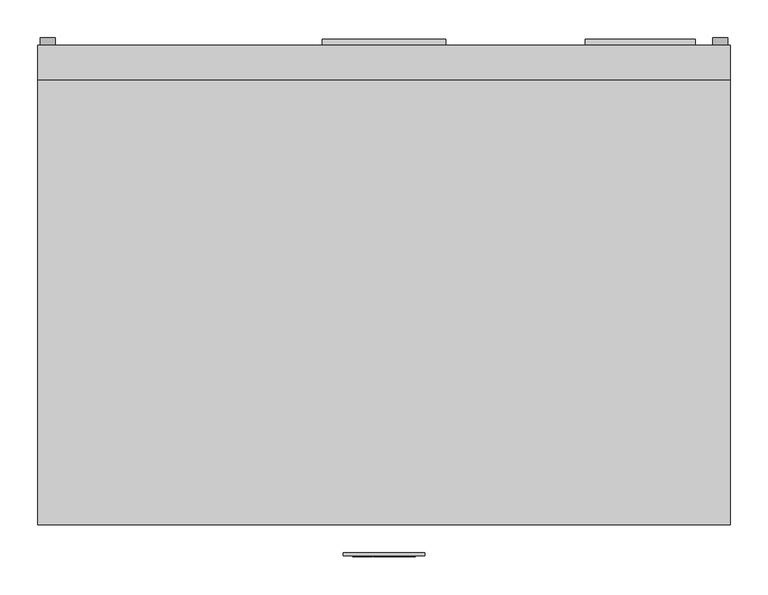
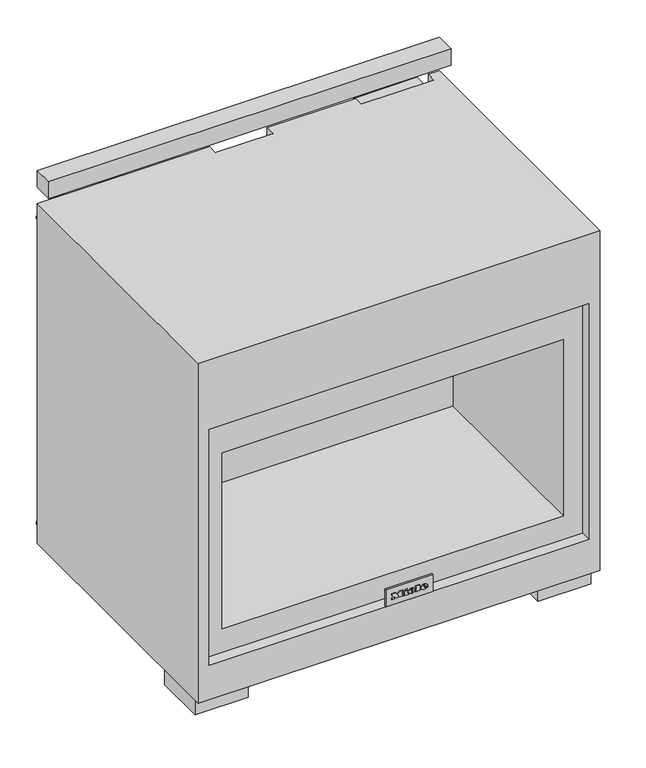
"""IFC4 building model written with IfcOpenShell, lengths in millimetres: proxy geometry, 11791610_USA_HR1936-3G_EDST-CLST : 25193681_USA_11791610_HR1936-3G_EDST-CLST."""

from ifc_helpers import new_model, si_unit, point, frame, frame_2d, origin, origin_with_axes, place, context, project, spatial, polyline, circle_curve, ellipse_curve, trimmed, segment, composite_curve, outline, extrude, faceted_brep, source, transform, mapped, element, save
from ifc_brep_helpers import plane_surface, cylinder_surface, revolved_surface, extruded_surface, advanced_brep


def specialty_equipment_e8b4f273(model_context):
    return source(origin(), model_context, "Body", "SolidModel", [
        extrude(outline(composite_curve([segment(trimmed(circle_curve(frame_2d((822.0, 444.0)), 10.0), [point((822.0, 454.0))], [point((822.0, 434.0))], False, "CARTESIAN"), True, "CONTINUOUS"), segment(trimmed(circle_curve(frame_2d((822.0, 444.0)), 10.0), [point((822.0, 434.0))], [point((822.0, 454.0))], False, "CARTESIAN"), True, "CONTINUOUS")], self_intersect=False)), frame((0.0, 0.0, 0.0), z_axis=(0.0, 1.0, 0.0), x_axis=(0.0, 0.0, 1.0)), (0.0, 0.0, 1.0), 10.0),
        extrude(outline(composite_curve([segment(trimmed(circle_curve(frame_2d((87.0, 444.0)), 10.0), [point((87.0, 454.0))], [point((87.0, 434.0))], False, "CARTESIAN"), True, "CONTINUOUS"), segment(trimmed(circle_curve(frame_2d((87.0, 444.0)), 10.0), [point((87.0, 434.0))], [point((87.0, 454.0))], False, "CARTESIAN"), True, "CONTINUOUS")], self_intersect=False)), frame((0.0, 0.0, 0.0), z_axis=(0.0, 1.0, 0.0), x_axis=(0.0, 0.0, 1.0)), (0.0, 0.0, 1.0), 10.0),
        extrude(outline(composite_curve([segment(trimmed(circle_curve(frame_2d((822.0, -444.0)), 10.0), [point((822.0, -434.0))], [point((822.0, -454.0))], False, "CARTESIAN"), True, "CONTINUOUS"), segment(trimmed(circle_curve(frame_2d((822.0, -444.0)), 10.0), [point((822.0, -454.0))], [point((822.0, -434.0))], False, "CARTESIAN"), True, "CONTINUOUS")], self_intersect=False)), frame((0.0, 0.0, 0.0), z_axis=(0.0, 1.0, 0.0), x_axis=(0.0, 0.0, 1.0)), (0.0, 0.0, 1.0), 10.0),
        extrude(outline(composite_curve([segment(trimmed(circle_curve(frame_2d((87.0, -444.0)), 10.0), [point((87.0, -434.0))], [point((87.0, -454.0))], False, "CARTESIAN"), True, "CONTINUOUS"), segment(trimmed(circle_curve(frame_2d((87.0, -444.0)), 10.0), [point((87.0, -454.0))], [point((87.0, -434.0))], False, "CARTESIAN"), True, "CONTINUOUS")], self_intersect=False)), frame((0.0, 0.0, 0.0), z_axis=(0.0, 1.0, 0.0), x_axis=(0.0, 0.0, 1.0)), (0.0, 0.0, 1.0), 10.0),
        extrude(outline(polyline([(266.0, 8.0), (411.0, 8.0), (411.0, -23.0), (266.0, -23.0), (266.0, 8.0)])), frame((0.0, 0.0, 742.0), z_axis=(0.0, 0.0, 1.0), x_axis=(1.0, 0.0, 0.0)), (0.0, 0.0, 1.0), 115.0),
        extrude(outline(polyline([(-81.5, 8.0), (81.5, 8.0), (81.5, 0.0), (-81.5, 0.0), (-81.5, 8.0)])), frame((0.0, 0.0, 559.0), z_axis=(0.0, 0.0, 1.0), x_axis=(1.0, 0.0, 0.0)), (0.0, 0.0, 1.0), 237.0),
        extrude(outline(composite_curve([segment(trimmed(circle_curve(frame_2d((-152.0, 39.6862697)), 39.6862697), [point((-112.6710759, 45.0))], [point((-191.3289241, 45.0))], False, "CARTESIAN"), True, "CONTINUOUS"), segment(polyline([(-191.3289241, 45.0), (-112.6710759, 45.0)]), True, "CONTINUOUS")], self_intersect=False)), frame((282.0, 0.0, 0.0), z_axis=(1.0, 0.0, 0.0), x_axis=(0.0, 1.0, 0.0)), (0.0, 0.0, 1.0), 28.0),
        extrude(outline(composite_curve([segment(polyline([(-366.0009008, -40.0), (-367.2635363, -40.0), (-367.0191787, -38.9415709), (-366.8778726, -34.1117735)]), True, "CONTINUOUS"), segment(trimmed(circle_curve(frame_2d((-365.387549, -34.1553762)), 1.4909613), [point((-366.8778726, -34.1117735))], [point((-365.6381402, -32.6856246))], False, "CARTESIAN"), True, "CONTINUOUS"), segment(trimmed(circle_curve(frame_2d((-364.1175682, -37.7832301)), 5.3195602), [point((-365.6381402, -32.6856246))], [point((-362.440667, -32.7348914))], False, "CARTESIAN"), True, "CONTINUOUS"), segment(polyline([(-362.440667, -32.7348914), (-361.3643767, -33.4338425), (-360.8177226, -34.6616478), (-362.0710839, -34.8155412), (-362.6628147, -33.9704619)]), True, "CONTINUOUS"), segment(trimmed(circle_curve(frame_2d((-363.889909, -36.6278559)), 2.9270297), [point((-362.6628147, -33.9704619))], [point((-365.335883, -34.0829271))], True, "CARTESIAN"), True, "CONTINUOUS"), segment(polyline([(-365.335883, -34.0829271), (-365.6819155, -35.289686), (-362.4250607, -35.9227545)]), True, "CONTINUOUS"), segment(trimmed(circle_curve(frame_2d((-362.8373847, -38.0439776)), 2.1609254), [point((-362.4250607, -35.9227545))], [point((-361.2872437, -39.5495212))], False, "CARTESIAN"), True, "CONTINUOUS"), segment(trimmed(circle_curve(frame_2d((-363.2230106, -36.6941434)), 3.4496922), [point((-361.2872437, -39.5495212))], [point((-364.4810512, -39.9062626))], False, "CARTESIAN"), True, "CONTINUOUS"), segment(polyline([(-364.4810512, -39.9062626), (-365.6943945, -39.0566705), (-366.0009008, -40.0)]), True, "CONTINUOUS")], self_intersect=False), holes=[composite_curve([segment(polyline([(-365.6808047, -36.7241112), (-365.4778117, -37.8753414), (-364.6808418, -38.5929363), (-363.3846505, -38.8921857)]), True, "CONTINUOUS"), segment(trimmed(circle_curve(frame_2d((-363.1641539, -37.9371101)), 0.980198), [point((-363.3846505, -38.8921857))], [point((-362.5826105, -37.148063))], True, "CARTESIAN"), True, "CONTINUOUS"), segment(polyline([(-362.5826105, -37.148063), (-363.683896, -36.9339948), (-365.6808047, -36.7241112)]), True, "CONTINUOUS")], self_intersect=False)]), frame((0.0, 0.0, 753.0), z_axis=(0.0, 0.0, 1.0), x_axis=(1.0, 0.0, 0.0)), (0.0, 0.0, 1.0), 1.0),
        extrude(outline(composite_curve([segment(polyline([(-369.4581842, -37.6489066), (-368.202206, -37.8031213), (-369.1593436, -39.5606642)]), True, "CONTINUOUS"), segment(trimmed(circle_curve(frame_2d((-371.3057471, -36.6354063)), 3.6282478), [point((-369.1593436, -39.5606642))], [point((-372.8962663, -39.8964538))], False, "CARTESIAN"), True, "CONTINUOUS"), segment(trimmed(circle_curve(frame_2d((-371.7731504, -37.593725)), 2.5620205), [point((-372.8962663, -39.8964538))], [point((-374.32893, -37.7724425))], False, "CARTESIAN"), True, "CONTINUOUS"), segment(trimmed(circle_curve(frame_2d((-372.617737, -37.6527843)), 1.7153715), [point((-374.32893, -37.7724425))], [point((-373.147816, -36.021369))], False, "CARTESIAN"), True, "CONTINUOUS"), segment(polyline([(-373.147816, -36.021369), (-371.3069947, -35.4232499), (-369.987673, -33.9770867)]), True, "CONTINUOUS"), segment(trimmed(circle_curve(frame_2d((-371.1408399, -36.351197)), 2.6393548), [point((-369.987673, -33.9770867))], [point((-372.2940069, -33.9770867))], True, "CARTESIAN"), True, "CONTINUOUS"), segment(polyline([(-372.2940069, -33.9770867), (-372.7553884, -34.6611129), (-374.0084996, -34.5072502), (-373.5756304, -33.3795875)]), True, "CONTINUOUS"), segment(trimmed(circle_curve(frame_2d((-370.9527143, -36.6576461)), 4.1982564), [point((-373.5756304, -33.3795875))], [point((-371.0505395, -32.4605295))], False, "CARTESIAN"), True, "CONTINUOUS"), segment(trimmed(circle_curve(frame_2d((-370.9805679, -35.4626064)), 3.0028922), [point((-371.0505395, -32.4605295))], [point((-368.5718203, -33.6694816))], False, "CARTESIAN"), True, "CONTINUOUS"), segment(trimmed(circle_curve(frame_2d((-370.4380028, -34.5301363)), 2.0550823), [point((-368.5718203, -33.6694816))], [point((-369.4341096, -36.323335))], False, "CARTESIAN"), True, "CONTINUOUS"), segment(polyline([(-369.4341096, -36.323335), (-371.3494535, -36.9828408), (-373.0597255, -37.9076387), (-372.6768706, -38.6156702)]), True, "CONTINUOUS"), segment(trimmed(circle_curve(frame_2d((-371.3695779, -35.6018954)), 3.2850956), [point((-372.6768706, -38.6156702))], [point((-370.0622852, -38.6156702))], True, "CARTESIAN"), True, "CONTINUOUS"), segment(polyline([(-370.0622852, -38.6156702), (-369.4581842, -37.6489066)]), True, "CONTINUOUS")], self_intersect=False)), frame((0.0, 0.0, 753.0), z_axis=(0.0, 0.0, 1.0), x_axis=(1.0, 0.0, 0.0)), (0.0, 0.0, 1.0), 1.0),
        extrude(outline(composite_curve([segment(polyline([(-359.0941465, -34.8216074), (-355.0193946, -34.8216074), (-355.0193946, -36.0727848), (-357.8300756, -36.0727848), (-357.8300756, -37.8953779), (-356.5547934, -38.5734575), (-354.8554891, -38.8730907)]), True, "CONTINUOUS"), segment(trimmed(circle_curve(frame_2d((-354.7763582, -35.1835188)), 3.6904203), [point((-354.8554891, -38.8730907))], [point((-351.0917956, -34.975672))], True, "CARTESIAN"), True, "CONTINUOUS"), segment(trimmed(circle_curve(frame_2d((-355.2742118, -35.2116028)), 4.1890654), [point((-351.0917956, -34.975672))], [point((-354.8924604, -31.0399683))], True, "CARTESIAN"), True, "CONTINUOUS"), segment(trimmed(circle_curve(frame_2d((-355.1434541, -33.7827322)), 2.7542243), [point((-354.8924604, -31.0399683))], [point((-357.2311401, -31.9862582))], True, "CARTESIAN"), True, "CONTINUOUS"), segment(polyline([(-357.2311401, -31.9862582), (-357.7913432, -33.1348449), (-358.9545959, -32.808521), (-358.2222817, -31.1459412)]), True, "CONTINUOUS"), segment(trimmed(circle_curve(frame_2d((-355.0056573, -34.3038983)), 4.5077007), [point((-358.2222817, -31.1459412))], [point((-354.8478593, -29.7989604))], False, "CARTESIAN"), True, "CONTINUOUS"), segment(trimmed(circle_curve(frame_2d((-355.0297107, -35.0029797)), 5.2071956), [point((-354.8478593, -29.7989604))], [point((-349.8225151, -35.0029797))], False, "CARTESIAN"), True, "CONTINUOUS"), segment(trimmed(circle_curve(frame_2d((-355.0187023, -34.9634409)), 5.1963376), [point((-349.8225151, -35.0029797))], [point((-355.0187023, -40.1597785))], False, "CARTESIAN"), True, "CONTINUOUS"), segment(polyline([(-355.0187023, -40.1597785), (-357.0821579, -39.7823822), (-359.0941465, -38.5734575), (-359.0941465, -34.8216074)]), True, "CONTINUOUS")], self_intersect=False)), frame((0.0, 0.0, 753.0), z_axis=(0.0, 0.0, 1.0), x_axis=(1.0, 0.0, 0.0)), (0.0, 0.0, 1.0), 1.0),
        extrude(outline(polyline([(246.4261097, -48.2846028), (239.1553153, -48.2846028), (239.1553153, -47.0259878), (245.1324687, -47.0259878), (245.1324687, -44.0398896), (239.4699511, -44.0398896), (239.4699511, -42.7868997), (245.1324687, -42.7868997), (245.1324687, -39.484481), (239.0234692, -39.484481), (239.0234692, -38.223126), (246.4261097, -38.223126), (246.4261097, -48.2846028)])), frame((0.0, 0.0, 101.0), z_axis=(0.0, 0.0, 1.0), x_axis=(1.0, 0.0, 0.0)), (0.0, 0.0, 1.0), 1.0),
        extrude(outline(polyline([(237.0939455, -48.2781045), (230.9083542, -48.2781045), (230.9083542, -47.0259878), (235.9083542, -47.0259878), (235.9083542, -38.223126), (237.0939455, -38.223126), (237.0939455, -48.2781045)])), frame((0.0, 0.0, 101.0), z_axis=(0.0, 0.0, 1.0), x_axis=(1.0, 0.0, 0.0)), (0.0, 0.0, 1.0), 1.0),
        extrude(outline(composite_curve([segment(trimmed(circle_curve(frame_2d((239.0, -44.0)), 7.5), [point((239.0, -51.5))], [point((239.0, -36.5))], False, "CARTESIAN"), True, "CONTINUOUS"), segment(trimmed(circle_curve(frame_2d((239.0, -44.0)), 7.5), [point((239.0, -36.5))], [point((239.0, -51.5))], False, "CARTESIAN"), True, "CONTINUOUS")], self_intersect=False)), frame((0.0, 0.0, 102.0), z_axis=(0.0, 0.0, 1.0), x_axis=(1.0, 0.0, 0.0)), (0.0, 0.0, 1.0), 30.0),
        extrude(outline(composite_curve([segment(trimmed(circle_curve(frame_2d((-362.0, -35.0)), 7.5), [point((-369.5, -35.0))], [point((-354.5, -35.0))], False, "CARTESIAN"), True, "CONTINUOUS"), segment(trimmed(circle_curve(frame_2d((-362.0, -35.0)), 7.5), [point((-354.5, -35.0))], [point((-369.5, -35.0))], False, "CARTESIAN"), True, "CONTINUOUS")], self_intersect=False)), frame((0.0, 0.0, 754.0), z_axis=(0.0, 0.0, 1.0), x_axis=(1.0, 0.0, 0.0)), (0.0, 0.0, 1.0), 30.0),
        extrude(outline(polyline([(742.9900117, -299.5376107), (753.0405487, -296.8032463), (753.0405487, -298.1010309), (744.3952189, -300.1941056), (753.0411296, -302.6946617), (753.0411296, -304.5615338), (744.4117226, -307.0845612), (753.0419182, -309.165026), (753.0419182, -310.4626989), (742.9984871, -307.7244126), (742.9984871, -306.3735976), (751.8308623, -303.6286268), (742.9900117, -301.0716905), (742.9900117, -299.5376107)])), frame((0.0, -36.0, 0.0), z_axis=(0.0, 1.0, 0.0), x_axis=(0.0, 0.0, 1.0)), (0.0, 0.0, 1.0), 1.0),
        extrude(outline(polyline([(743.0, -288.4829639), (753.0509015, -288.4829639), (753.0509015, -289.7409127), (748.1386151, -289.7409127), (753.0475587, -294.8904554), (753.0475587, -296.6455728), (748.9164775, -292.3179994), (743.0, -296.8019347), (743.0, -295.2701694), (748.0664133, -291.4304743), (746.4465471, -289.7392234), (743.0, -289.7392234), (743.0, -288.4829639)])), frame((0.0, -36.0, 0.0), z_axis=(0.0, 1.0, 0.0), x_axis=(0.0, 0.0, 1.0)), (0.0, 0.0, 1.0), 1.0),
        extrude(outline(composite_curve([segment(trimmed(circle_curve(frame_2d((748.0, -299.0)), 7.5), [point((748.0, -291.5))], [point((748.0, -306.5))], False, "CARTESIAN"), True, "CONTINUOUS"), segment(trimmed(circle_curve(frame_2d((748.0, -299.0)), 7.5), [point((748.0, -306.5))], [point((748.0, -291.5))], False, "CARTESIAN"), True, "CONTINUOUS")], self_intersect=False)), frame((0.0, -66.0, 0.0), z_axis=(0.0, 1.0, 0.0), x_axis=(0.0, 0.0, 1.0)), (0.0, 0.0, 1.0), 30.0),
        faceted_brep([(-457.0, 0.0, 862.0), (-457.0, -633.0, 862.0), (457.0, -633.0, 862.0), (457.0, 0.0, 862.0), (432.0, 0.0, 862.0), (432.0, -23.0, 862.0), (266.0, -23.0, 862.0), (266.0, 0.0, 862.0), (65.0, 0.0, 862.0), (65.0, -23.0, 862.0), (-66.0, -23.0, 862.0), (-66.0, 0.0, 862.0), (457.0, 0.0, 45.0), (457.0, -633.0, 45.0), (-457.0, -633.0, 45.0), (-457.0, 0.0, 45.0), (-432.0, 0.0, 45.0), (-432.0, -75.0, 45.0), (432.0, -75.0, 45.0), (432.0, 0.0, 45.0), (266.0, 0.0, 132.0), (65.0, 0.0, 132.0), (-66.0, 0.0, 132.0), (-270.0, 0.0, 132.0), (-270.0, 0.0, 784.0), (-411.0, 0.0, 784.0), (-411.0, 0.0, 132.0), (-432.0, 0.0, 132.0), (432.0, -633.0, 695.0), (432.0, -633.0, 128.0), (-432.0, -633.0, 128.0), (-432.0, -633.0, 695.0), (432.0, -608.0, 695.0), (-432.0, -608.0, 695.0), (-432.0, -608.0, 128.0), (432.0, -608.0, 128.0), (388.0, -608.0, 608.0), (388.0, -608.0, 185.0), (-388.0, -608.0, 185.0), (-388.0, -608.0, 608.0), (388.0, -173.0, 608.0), (-388.0, -173.0, 608.0), (-388.0, -173.0, 185.0), (388.0, -173.0, 185.0), (432.0, -23.0, 132.0), (266.0, -23.0, 132.0), (65.0, -23.0, 132.0), (-66.0, -23.0, 132.0), (432.0, -75.0, 132.0), (-411.0, -69.0, 784.0), (-270.0, -69.0, 784.0), (-270.0, -69.0, 132.0), (-411.0, -69.0, 132.0), (-432.0, -75.0, 132.0)], [[[0, 1, 2, 3, 4, 5, 6, 7, 8, 9, 10, 11]], [[12, 13, 14, 15, 16, 17, 18, 19]], [[8, 7, 20, 21]], [[3, 12, 19, 4]], [[15, 0, 11, 22, 23, 24, 25, 26, 27, 16]], [[1, 0, 15, 14]], [[2, 1, 14, 13], [28, 29, 30, 31]], [[3, 2, 13, 12]], [[32, 33, 34, 35], [36, 37, 38, 39]], [[32, 35, 29, 28]], [[35, 34, 30, 29]], [[34, 33, 31, 30]], [[33, 32, 28, 31]], [[40, 41, 42, 43]], [[40, 43, 37, 36]], [[43, 42, 38, 37]], [[42, 41, 39, 38]], [[41, 40, 36, 39]], [[6, 5, 44, 45]], [[10, 9, 46, 47]], [[9, 8, 21, 46]], [[11, 10, 47, 22]], [[5, 4, 19, 18, 48, 44]], [[7, 6, 45, 20]], [[49, 50, 51, 52]], [[50, 49, 25, 24]], [[50, 24, 23, 51]], [[25, 49, 52, 26]], [[53, 48, 18, 17]], [[27, 53, 17, 16]], [[48, 53, 27, 26, 52, 51, 23, 22, 47, 46, 21, 20, 45, 44]]]),
        extrude(outline(composite_curve([segment(trimmed(circle_curve(frame_2d((-152.0, 39.6862697)), 39.6862697), [point((-112.6710759, 45.0))], [point((-191.3289241, 45.0))], False, "CARTESIAN"), True, "CONTINUOUS"), segment(polyline([(-191.3289241, 45.0), (-112.6710759, 45.0)]), True, "CONTINUOUS")], self_intersect=False)), frame((-310.0, 0.0, 0.0), z_axis=(1.0, 0.0, 0.0), x_axis=(0.0, 1.0, 0.0)), (0.0, 0.0, 1.0), 28.0),
        extrude(outline(polyline([(-330.0, -489.0), (-330.0, -609.0), (-450.0, -609.0), (-450.0, -489.0), (-330.0, -489.0)])), origin_with_axes(), (0.0, 0.0, 1.0), 45.0),
        extrude(outline(polyline([(450.0, -489.0), (450.0, -609.0), (330.0, -609.0), (330.0, -489.0), (450.0, -489.0)])), origin_with_axes(), (0.0, 0.0, 1.0), 45.0),
        advanced_brep(
        [(32.17, -675.0, 177.1995), (32.17, -675.0, 178.563), (41.2015, -675.0, 178.563), (25.4875, -675.0, 178.563), (29.2, -675.0, 174.0), (40.972, -675.0, 177.1995), (36.895, -675.0, 177.1995), (33.682, -675.0, 175.6875), (32.17, -675.0, 180.291), (32.17, -675.0, 181.7625), (34.4785, -675.0, 181.7625), (34.4785, -675.0, 180.291), (32.17, -674.0, 177.1995), (33.682, -674.0, 175.6875), (36.895, -674.0, 177.1995), (40.972, -674.0, 177.1995), (29.2, -674.0, 174.0), (25.4875, -674.0, 178.563), (41.2015, -674.0, 178.563), (32.17, -674.0, 178.563), (32.17, -674.0, 180.291), (34.4785, -674.0, 180.291), (34.4785, -674.0, 181.7625), (32.17, -674.0, 181.7625)],
        [
            (0, 1),
            (1, 2),
            (2, 3, ellipse_curve(frame((33.3445, -675.0, 178.563), z_axis=(0.0, -1.0, 0.0), x_axis=(-1.0, 0.0, 0.0)), 7.857, 6.4935)),
            (3, 4, circle_curve(frame((30.7120736, -675.0, 179.022), z_axis=(0.0, -1.0, 0.0), x_axis=(0.0, 0.0, -1.0)), 5.2446974)),
            (4, 5, circle_curve(frame((33.1872142, -675.0, 182.586), z_axis=(0.0, -1.0, 0.0), x_axis=(0.0, 0.0, -1.0)), 9.46664)),
            (5, 6),
            (6, 7, circle_curve(frame((34.3419118, -675.0, 178.455), z_axis=(0.0, 1.0, 0.0), x_axis=(0.0, 0.0, -1.0)), 2.8450905)),
            (7, 0, circle_curve(frame((33.682, -675.0, 177.1995), z_axis=(0.0, 1.0, 0.0), x_axis=(0.0, 0.0, -1.0)), 1.512)),
            (8, 9),
            (9, 10, circle_curve(frame((33.32425, -675.0, 181.7625), z_axis=(0.0, 1.0, 0.0), x_axis=(0.0, 0.0, -1.0)), 1.15425)),
            (10, 11),
            (11, 8),
            (12, 13, circle_curve(frame((33.682, -674.0, 177.1995), z_axis=(0.0, -1.0, 0.0), x_axis=(0.0, 0.0, -1.0)), 1.512)),
            (13, 14, circle_curve(frame((34.3419118, -674.0, 178.455), z_axis=(0.0, -1.0, 0.0), x_axis=(0.0, 0.0, -1.0)), 2.8450905)),
            (14, 15),
            (15, 16, circle_curve(frame((33.1872142, -674.0, 182.586), z_axis=(0.0, 1.0, 0.0), x_axis=(0.0, 0.0, -1.0)), 9.46664)),
            (16, 17, circle_curve(frame((30.7120736, -674.0, 179.022), z_axis=(0.0, 1.0, 0.0), x_axis=(0.0, 0.0, -1.0)), 5.2446974)),
            (17, 18, ellipse_curve(frame((33.3445, -674.0, 178.563), z_axis=(0.0, 1.0, 0.0), x_axis=(-1.0, 0.0, 0.0)), 7.857, 6.4935)),
            (18, 19),
            (19, 12),
            (20, 21),
            (21, 22),
            (22, 23, circle_curve(frame((33.32425, -674.0, 181.7625), z_axis=(0.0, -1.0, 0.0), x_axis=(0.0, 0.0, -1.0)), 1.15425)),
            (23, 20),
            (0, 12),
            (19, 1),
            (18, 2),
            (5, 15),
            (14, 6),
            (17, 3),
            (13, 7),
            (16, 4),
            (8, 20),
            (23, 9),
            (22, 10),
            (21, 11),
        ],
        [
            plane_surface(frame((32.17, -675.0, 178.563), z_axis=(0.0, -1.0, 0.0), x_axis=(0.0, 0.0, 1.0))),
            plane_surface(frame((32.17, -674.0, 178.563), z_axis=(0.0, 1.0, 0.0), x_axis=(0.0, 0.0, -1.0))),
            plane_surface(frame((32.17, -675.0, 177.1995), z_axis=(1.0, 0.0, 0.0), x_axis=(0.0, 1.0, 0.0))),
            plane_surface(frame((32.17, -675.0, 178.563), z_axis=(0.0, 0.0, -1.0), x_axis=(0.0, 1.0, 0.0))),
            plane_surface(frame((40.972, -675.0, 177.1995), z_axis=(0.0, 0.0, 1.0), x_axis=(0.0, 1.0, 0.0))),
            extruded_surface(trimmed(ellipse_curve(frame((33.3445, -673.0, 178.563), z_axis=(0.0, -1.0, 0.0), x_axis=(-1.0, 0.0, 0.0)), 7.857, 6.4935), [point((41.2015, -673.0, 178.563))], [point((25.4875, -673.0, 178.563))], True, "CARTESIAN"), (0.0, -1.0, 0.0), 1.0),
            revolved_surface(polyline([(34.3419118, -674.0, 175.60990950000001), (34.3419118, -675.0, 175.60990950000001)]), (34.3419118, -674.0, 178.455), (0.0, 1.0, 0.0)),
            revolved_surface(polyline([(33.682, -674.0, 175.6875), (33.682, -675.0, 175.6875)]), (33.682, -674.0, 177.1995), (0.0, 1.0, 0.0)),
            cylinder_surface(frame((30.7120736, -674.0, 179.022), z_axis=(0.0, -1.0, 0.0), x_axis=(0.0, 0.0, -1.0)), 5.2446974),
            cylinder_surface(frame((33.1872142, -674.0, 182.586), z_axis=(0.0, -1.0, 0.0), x_axis=(0.0, 0.0, -1.0)), 9.46664),
            plane_surface(frame((32.17, -675.0, 180.291), z_axis=(1.0, 0.0, 0.0), x_axis=(0.0, 1.0, 0.0))),
            revolved_surface(polyline([(33.32425, -674.0, 180.60825), (33.32425, -675.0, 180.60825)]), (33.32425, -674.0, 181.7625), (0.0, 1.0, 0.0)),
            plane_surface(frame((34.4785, -675.0, 181.7625), z_axis=(-1.0, 0.0, 0.0), x_axis=(0.0, 1.0, 0.0))),
            plane_surface(frame((34.4785, -675.0, 180.291), z_axis=(0.0, 0.0, 1.0), x_axis=(0.0, 1.0, 0.0))),
        ],
        [
            (0, [[1, 2, 3, 4, 5, 6, 7, 8], [9, 10, 11, 12]]),
            (1, [[13, 14, 15, 16, 17, 18, 19, 20], [21, 22, 23, 24]]),
            (2, [[-1, 25, -20, 26]]),
            (3, [[-2, -26, -19, 27]]),
            (4, [[-6, 28, -15, 29]]),
            (5, [[-3, -27, -18, 30]]),
            (6, [[-7, -29, -14, 31]]),
            (7, [[-8, -31, -13, -25]]),
            (8, [[-4, -30, -17, 32]]),
            (9, [[-5, -32, -16, -28]]),
            (10, [[-9, 33, -24, 34]]),
            (11, [[-10, -34, -23, 35]]),
            (12, [[-11, -35, -22, 36]]),
            (13, [[-12, -36, -21, -33]]),
        ],
    ),
        advanced_brep(
        [(3.9955, -675.0, 177.1995), (3.9955, -675.0, 178.563), (13.027, -675.0, 178.563), (-2.687, -675.0, 178.563), (1.0255, -675.0, 174.0), (12.7975, -675.0, 177.1995), (8.7205, -675.0, 177.1995), (5.5075, -675.0, 175.6875), (3.9955, -675.0, 180.291), (3.9955, -675.0, 181.7625), (6.304, -675.0, 181.7625), (6.304, -675.0, 180.291), (3.9955, -674.0, 177.1995), (5.5075, -674.0, 175.6875), (8.7205, -674.0, 177.1995), (12.7975, -674.0, 177.1995), (1.0255, -674.0, 174.0), (-2.687, -674.0, 178.563), (13.027, -674.0, 178.563), (3.9955, -674.0, 178.563), (3.9955, -674.0, 180.291), (6.304, -674.0, 180.291), (6.304, -674.0, 181.7625), (3.9955, -674.0, 181.7625)],
        [
            (0, 1),
            (1, 2),
            (2, 3, ellipse_curve(frame((5.17, -675.0, 178.563), z_axis=(0.0, -1.0, 0.0), x_axis=(-1.0, 0.0, 0.0)), 7.857, 6.4935)),
            (3, 4, circle_curve(frame((2.5375736, -675.0, 179.022), z_axis=(0.0, -1.0, 0.0), x_axis=(0.0, 0.0, -1.0)), 5.2446974)),
            (4, 5, circle_curve(frame((5.0127142, -675.0, 182.586), z_axis=(0.0, -1.0, 0.0), x_axis=(0.0, 0.0, -1.0)), 9.46664)),
            (5, 6),
            (6, 7, circle_curve(frame((6.1674118, -675.0, 178.455), z_axis=(0.0, 1.0, 0.0), x_axis=(0.0, 0.0, -1.0)), 2.8450905)),
            (7, 0, circle_curve(frame((5.5075, -675.0, 177.1995), z_axis=(0.0, 1.0, 0.0), x_axis=(0.0, 0.0, -1.0)), 1.512)),
            (8, 9),
            (9, 10, circle_curve(frame((5.14975, -675.0, 181.7625), z_axis=(0.0, 1.0, 0.0), x_axis=(0.0, 0.0, -1.0)), 1.15425)),
            (10, 11),
            (11, 8),
            (12, 13, circle_curve(frame((5.5075, -674.0, 177.1995), z_axis=(0.0, -1.0, 0.0), x_axis=(0.0, 0.0, -1.0)), 1.512)),
            (13, 14, circle_curve(frame((6.1674118, -674.0, 178.455), z_axis=(0.0, -1.0, 0.0), x_axis=(0.0, 0.0, -1.0)), 2.8450905)),
            (14, 15),
            (15, 16, circle_curve(frame((5.0127142, -674.0, 182.586), z_axis=(0.0, 1.0, 0.0), x_axis=(0.0, 0.0, -1.0)), 9.46664)),
            (16, 17, circle_curve(frame((2.5375736, -674.0, 179.022), z_axis=(0.0, 1.0, 0.0), x_axis=(0.0, 0.0, -1.0)), 5.2446974)),
            (17, 18, ellipse_curve(frame((5.17, -674.0, 178.563), z_axis=(0.0, 1.0, 0.0), x_axis=(-1.0, 0.0, 0.0)), 7.857, 6.4935)),
            (18, 19),
            (19, 12),
            (20, 21),
            (21, 22),
            (22, 23, circle_curve(frame((5.14975, -674.0, 181.7625), z_axis=(0.0, -1.0, 0.0), x_axis=(0.0, 0.0, -1.0)), 1.15425)),
            (23, 20),
            (0, 12),
            (19, 1),
            (18, 2),
            (5, 15),
            (14, 6),
            (17, 3),
            (13, 7),
            (16, 4),
            (8, 20),
            (23, 9),
            (22, 10),
            (21, 11),
        ],
        [
            plane_surface(frame((3.9955, -675.0, 178.563), z_axis=(0.0, -1.0, 0.0), x_axis=(0.0, 0.0, 1.0))),
            plane_surface(frame((3.9955, -674.0, 178.563), z_axis=(0.0, 1.0, 0.0), x_axis=(0.0, 0.0, -1.0))),
            plane_surface(frame((3.9955, -675.0, 177.1995), z_axis=(1.0, 0.0, 0.0), x_axis=(0.0, 1.0, 0.0))),
            plane_surface(frame((3.9955, -675.0, 178.563), z_axis=(0.0, 0.0, -1.0), x_axis=(0.0, 1.0, 0.0))),
            plane_surface(frame((12.7975, -675.0, 177.1995), z_axis=(0.0, 0.0, 1.0), x_axis=(0.0, 1.0, 0.0))),
            extruded_surface(trimmed(ellipse_curve(frame((5.17, -673.0, 178.563), z_axis=(0.0, -1.0, 0.0), x_axis=(-1.0, 0.0, 0.0)), 7.857, 6.4935), [point((13.027, -673.0, 178.563))], [point((-2.687, -673.0, 178.563))], True, "CARTESIAN"), (0.0, -1.0, 0.0), 1.0),
            revolved_surface(polyline([(6.1674118, -674.0, 175.60990950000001), (6.1674118, -675.0, 175.60990950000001)]), (6.1674118, -674.0, 178.455), (0.0, 1.0, 0.0)),
            revolved_surface(polyline([(5.5075, -674.0, 175.6875), (5.5075, -675.0, 175.6875)]), (5.5075, -674.0, 177.1995), (0.0, 1.0, 0.0)),
            cylinder_surface(frame((2.5375736, -674.0, 179.022), z_axis=(0.0, -1.0, 0.0), x_axis=(0.0, 0.0, -1.0)), 5.2446974),
            cylinder_surface(frame((5.0127142, -674.0, 182.586), z_axis=(0.0, -1.0, 0.0), x_axis=(0.0, 0.0, -1.0)), 9.46664),
            plane_surface(frame((3.9955, -675.0, 180.291), z_axis=(1.0, 0.0, 0.0), x_axis=(0.0, 1.0, 0.0))),
            revolved_surface(polyline([(5.14975, -674.0, 180.60825), (5.14975, -675.0, 180.60825)]), (5.14975, -674.0, 181.7625), (0.0, 1.0, 0.0)),
            plane_surface(frame((6.304, -675.0, 181.7625), z_axis=(-1.0, 0.0, 0.0), x_axis=(0.0, 1.0, 0.0))),
            plane_surface(frame((6.304, -675.0, 180.291), z_axis=(0.0, 0.0, 1.0), x_axis=(0.0, 1.0, 0.0))),
        ],
        [
            (0, [[1, 2, 3, 4, 5, 6, 7, 8], [9, 10, 11, 12]]),
            (1, [[13, 14, 15, 16, 17, 18, 19, 20], [21, 22, 23, 24]]),
            (2, [[-1, 25, -20, 26]]),
            (3, [[-2, -26, -19, 27]]),
            (4, [[-6, 28, -15, 29]]),
            (5, [[-3, -27, -18, 30]]),
            (6, [[-7, -29, -14, 31]]),
            (7, [[-8, -31, -13, -25]]),
            (8, [[-4, -30, -17, 32]]),
            (9, [[-5, -32, -16, -28]]),
            (10, [[-9, 33, -24, 34]]),
            (11, [[-10, -34, -23, 35]]),
            (12, [[-11, -35, -22, 36]]),
            (13, [[-12, -36, -21, -33]]),
        ],
    ),
        extrude(outline(polyline([(186.7035, -10.76), (184.5165, -9.734), (186.6495, -5.1575), (188.8365, -6.17), (186.7035, -10.76)])), frame((0.0, -675.0, 0.0), z_axis=(0.0, 1.0, 0.0), x_axis=(0.0, 0.0, 1.0)), (0.0, 0.0, 1.0), 1.0),
        extrude(outline(polyline([(184.2195, -14.0945), (181.803, -14.0945), (181.803, -12.488), (176.268, -12.488), (176.268, -14.0945), (174.0, -14.0945), (174.0, -3.443), (176.268, -3.443), (176.268, -5.009), (184.2195, -5.009), (184.2195, -14.0945)])), frame((0.0, -675.0, 0.0), z_axis=(0.0, 1.0, 0.0), x_axis=(0.0, 0.0, 1.0)), (0.0, 0.0, 1.0), 1.0),
        extrude(outline(polyline([(185.2995, 13.783), (185.2995, 15.403), (176.268, 15.403), (176.268, 13.783), (174.0, 13.783), (174.0, 24.7315), (176.268, 24.7315), (176.268, 23.071), (187.5, 23.071), (187.5, 13.783), (185.2995, 13.783)])), frame((0.0, -675.0, 0.0), z_axis=(0.0, 1.0, 0.0), x_axis=(0.0, 0.0, 1.0)), (0.0, 0.0, 1.0), 1.0),
        extrude(outline(polyline([(185.2995, -41.0), (185.2995, -39.3665), (176.268, -39.3665), (176.268, -41.0), (174.0, -41.0), (174.0, -35.06), (176.268, -35.06), (176.268, -36.68), (181.9756247, -36.68), (174.0, -30.6455), (182.2527223, -24.584), (176.268, -24.584), (176.268, -26.2445), (174.0, -26.2445), (174.0, -15.4715), (176.268, -15.4715), (176.268, -17.186), (185.2995, -17.186), (185.2995, -15.4715), (187.5, -15.4715), (187.5, -23.693), (182.4375, -27.635), (187.5, -31.5905), (187.5, -41.0), (185.2995, -41.0)])), frame((0.0, -675.0, 0.0), z_axis=(0.0, 1.0, 0.0), x_axis=(0.0, 0.0, 1.0)), (0.0, 0.0, 1.0), 1.0),
        extrude(outline(polyline([(457.0, 0.0), (457.0, -45.0), (-457.0, -45.0), (-457.0, 0.0), (457.0, 0.0)])), frame((0.0, 0.0, 902.0), z_axis=(0.0, 0.0, 1.0), x_axis=(1.0, 0.0, 0.0)), (0.0, 0.0, 1.0), 40.0),
        extrude(outline(composite_curve([segment(polyline([(-670.0, 160.0), (-673.5, 160.0)]), True, "CONTINUOUS"), segment(trimmed(circle_curve(frame_2d((-464.0137328, 180.5)), 210.4869263), [point((-673.5, 160.0))], [point((-673.5, 201.0))], False, "CARTESIAN"), True, "CONTINUOUS"), segment(polyline([(-673.5, 201.0), (-670.0, 201.0), (-670.0, 160.0)]), True, "CONTINUOUS")], self_intersect=False)), frame((-53.5, 0.0, 0.0), z_axis=(1.0, 0.0, 0.0), x_axis=(0.0, 1.0, 0.0)), (0.0, 0.0, 1.0), 107.0),
    ])


if __name__ == "__main__":
    model = new_model("IFC4")
    model_context = context("Model", 3, world=origin())
    ifc_project = project(units=[si_unit("LENGTHUNIT", "METRE", prefix="MILLI")], contexts=[model_context])
    site = spatial("IfcSite", under=ifc_project)
    building = spatial("IfcBuilding", under=site)
    placement = place(None, origin())
    specialty_equipment_shape = specialty_equipment_e8b4f273(model_context)
    element("IfcBuildingElementProxy", 1, Name="11791610_USA_HR1936-3G_EDST-CLST : 25193681_USA_11791610_HR1936-3G_EDST-CLST", ObjectType="11791610_USA_HR1936-3G_EDST-CLST : 25193681_USA_11791610_HR1936-3G_EDST-CLST", at=placement, inside=building, context=model_context, shape_type="MappedRepresentation", body=[
        mapped(specialty_equipment_shape, transform((0.0, 0.0, 0.0), x_axis=(1.0, 0.0, 0.0), y_axis=(0.0, 1.0, 0.0), z_axis=(0.0, 0.0, 1.0))),
    ])
    save(model, "model.ifc")
